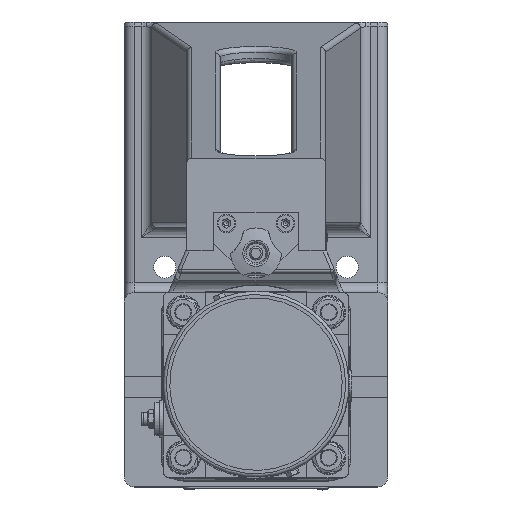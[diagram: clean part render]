
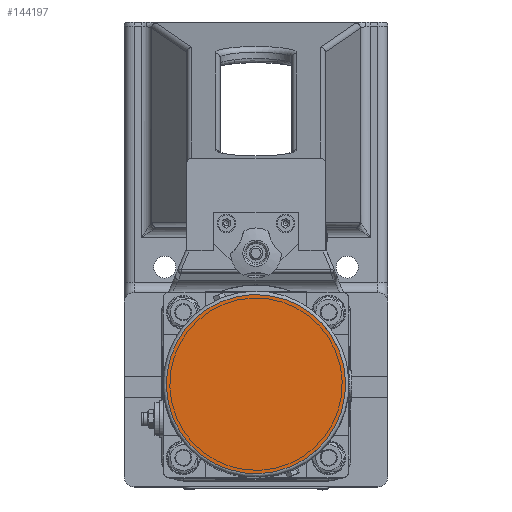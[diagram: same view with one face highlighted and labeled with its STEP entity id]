
A CAD part, top view. The second image highlights one B-rep face of the part: STEP entity #144197.
In plain terms, the highlighted planar face has unit normal (0, 0, 1).
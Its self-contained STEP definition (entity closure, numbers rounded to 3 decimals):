
#38404=PLANE('',#151459);
#45376=FACE_OUTER_BOUND('',#53093,.T.);
#53093=EDGE_LOOP('',(#111968));
#58361=CIRCLE('',#151458,53.);
#65372=VERTEX_POINT('',#213254);
#82133=EDGE_CURVE('',#65372,#65372,#58361,.T.);
#111968=ORIENTED_EDGE('',*,*,#82133,.F.);
#144197=ADVANCED_FACE('',(#45376),#38404,.F.);
#151458=AXIS2_PLACEMENT_3D('',#213255,#168612,#168613);
#151459=AXIS2_PLACEMENT_3D('',#213256,#168614,#168615);
#168612=DIRECTION('center_axis',(0.,0.,
-1.));
#168613=DIRECTION('ref_axis',(-0.924,-0.383,0.));
#168614=DIRECTION('center_axis',(0.,0.,
-1.));
#168615=DIRECTION('ref_axis',(-0.924,-0.383,0.));
#213254=CARTESIAN_POINT('',(48.966,6.282,752.));
#213255=CARTESIAN_POINT('Origin',(0.,-14.,
752.));
#213256=CARTESIAN_POINT('Origin',(0.,-14.,
752.));
